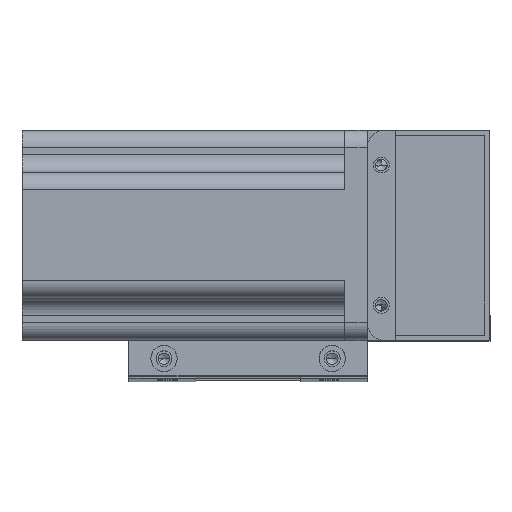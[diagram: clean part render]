
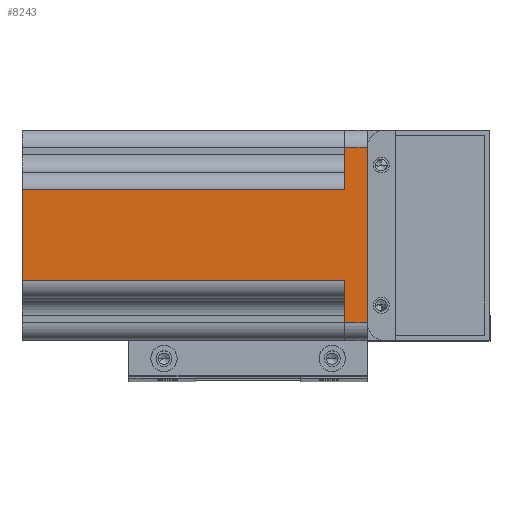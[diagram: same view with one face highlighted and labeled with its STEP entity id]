
A CAD part, top view. The second image highlights one B-rep face of the part: STEP entity #8243.
In plain terms, the highlighted planar face has unit normal (0, 0, 1) as drawn and (0, 1, 0) by its records, which use the part's own axes.
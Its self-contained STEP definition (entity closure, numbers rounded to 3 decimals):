
#391 = CARTESIAN_POINT ( 'NONE',  ( -25., 30., 0. ) ) ;
#1708 = LINE ( 'NONE', #26073, #23354 ) ;
#3569 = VECTOR ( 'NONE', #5279, 1000. ) ;
#4778 = CARTESIAN_POINT ( 'NONE',  ( -25., 30., 0. ) ) ;
#4965 = VERTEX_POINT ( 'NONE', #16673 ) ;
#5279 = DIRECTION ( 'NONE',  ( -1., 0., 0. ) ) ;
#5439 = DIRECTION ( 'NONE',  ( 0., 0., 1. ) ) ;
#5525 = DIRECTION ( 'NONE',  ( 0., 0., -1. ) ) ;
#5775 = DIRECTION ( 'NONE',  ( 0., 0., -1. ) ) ;
#6060 = CARTESIAN_POINT ( 'NONE',  ( -25., 30., 6.5 ) ) ;
#6211 = ORIENTED_EDGE ( 'NONE', *, *, #23422, .T. ) ;
#6684 = VECTOR ( 'NONE', #27078, 1000. ) ;
#7234 = EDGE_CURVE ( 'NONE', #17195, #16984, #20496, .T. ) ;
#8243 = ADVANCED_FACE ( 'NONE', ( #20384 ), #9686, .F. ) ;
#8566 = AXIS2_PLACEMENT_3D ( 'NONE', #27267, #25174, #5525 ) ;
#8577 = VERTEX_POINT ( 'NONE', #24768 ) ;
#8671 = LINE ( 'NONE', #20309, #25225 ) ;
#9296 = ORIENTED_EDGE ( 'NONE', *, *, #7234, .F. ) ;
#9504 = DIRECTION ( 'NONE',  ( -1., 0., 0. ) ) ;
#9604 = CARTESIAN_POINT ( 'NONE',  ( -13., 30., 6.5 ) ) ;
#9686 = PLANE ( 'NONE',  #8566 ) ;
#9723 = CARTESIAN_POINT ( 'NONE',  ( 13., 30., 0. ) ) ;
#10791 = CARTESIAN_POINT ( 'NONE',  ( 13., 30., 6.5 ) ) ;
#11843 = VERTEX_POINT ( 'NONE', #23080 ) ;
#12340 = VERTEX_POINT ( 'NONE', #15546 ) ;
#13266 = ORIENTED_EDGE ( 'NONE', *, *, #14722, .F. ) ;
#13347 = DIRECTION ( 'NONE',  ( 1., 0., 0. ) ) ;
#14151 = ORIENTED_EDGE ( 'NONE', *, *, #21182, .T. ) ;
#14269 = VERTEX_POINT ( 'NONE', #9723 ) ;
#14619 = ORIENTED_EDGE ( 'NONE', *, *, #26911, .T. ) ;
#14722 = EDGE_CURVE ( 'NONE', #16984, #25738, #27527, .T. ) ;
#15082 = VECTOR ( 'NONE', #5439, 1000. ) ;
#15546 = CARTESIAN_POINT ( 'NONE',  ( 13., 30., -92. ) ) ;
#15627 = ORIENTED_EDGE ( 'NONE', *, *, #16886, .F. ) ;
#15659 = CARTESIAN_POINT ( 'NONE',  ( -25., 30., 6.5 ) ) ;
#16673 = CARTESIAN_POINT ( 'NONE',  ( -13., 30., -92. ) ) ;
#16886 = EDGE_CURVE ( 'NONE', #4965, #12340, #1708, .T. ) ;
#16984 = VERTEX_POINT ( 'NONE', #24554 ) ;
#17110 = EDGE_LOOP ( 'NONE', ( #22331, #6211, #15627, #14151, #18227, #13266, #9296, #14619 ) ) ;
#17195 = VERTEX_POINT ( 'NONE', #23056 ) ;
#17219 = DIRECTION ( 'NONE',  ( 0., 0., -1. ) ) ;
#17510 = LINE ( 'NONE', #22742, #6684 ) ;
#18227 = ORIENTED_EDGE ( 'NONE', *, *, #21109, .T. ) ;
#19027 = VECTOR ( 'NONE', #17219, 1000. ) ;
#19119 = VECTOR ( 'NONE', #9504, 1000. ) ;
#20309 = CARTESIAN_POINT ( 'NONE',  ( -25., 30., 0. ) ) ;
#20384 = FACE_OUTER_BOUND ( 'NONE', #17110, .T. ) ;
#20496 = LINE ( 'NONE', #15659, #19119 ) ;
#20671 = EDGE_CURVE ( 'NONE', #11843, #14269, #25194, .T. ) ;
#21109 = EDGE_CURVE ( 'NONE', #8577, #25738, #8671, .T. ) ;
#21182 = EDGE_CURVE ( 'NONE', #4965, #8577, #26597, .T. ) ;
#21780 = VECTOR ( 'NONE', #5775, 1000. ) ;
#22331 = ORIENTED_EDGE ( 'NONE', *, *, #20671, .T. ) ;
#22742 = CARTESIAN_POINT ( 'NONE',  ( 25., 30., 6.5 ) ) ;
#23056 = CARTESIAN_POINT ( 'NONE',  ( 25., 30., 6.5 ) ) ;
#23080 = CARTESIAN_POINT ( 'NONE',  ( 25., 30., 0. ) ) ;
#23354 = VECTOR ( 'NONE', #13347, 1000. ) ;
#23422 = EDGE_CURVE ( 'NONE', #14269, #12340, #25121, .T. ) ;
#24175 = DIRECTION ( 'NONE',  ( -1., 0., 0. ) ) ;
#24554 = CARTESIAN_POINT ( 'NONE',  ( -25., 30., 6.5 ) ) ;
#24768 = CARTESIAN_POINT ( 'NONE',  ( -13., 30., 0. ) ) ;
#25121 = LINE ( 'NONE', #10791, #19027 ) ;
#25174 = DIRECTION ( 'NONE',  ( 0., -1., 0. ) ) ;
#25194 = LINE ( 'NONE', #391, #3569 ) ;
#25225 = VECTOR ( 'NONE', #24175, 1000. ) ;
#25738 = VERTEX_POINT ( 'NONE', #4778 ) ;
#26073 = CARTESIAN_POINT ( 'NONE',  ( -18., 30., -92. ) ) ;
#26597 = LINE ( 'NONE', #9604, #15082 ) ;
#26911 = EDGE_CURVE ( 'NONE', #17195, #11843, #17510, .T. ) ;
#27078 = DIRECTION ( 'NONE',  ( 0., 0., -1. ) ) ;
#27267 = CARTESIAN_POINT ( 'NONE',  ( -25., 30., 6.5 ) ) ;
#27527 = LINE ( 'NONE', #6060, #21780 ) ;
